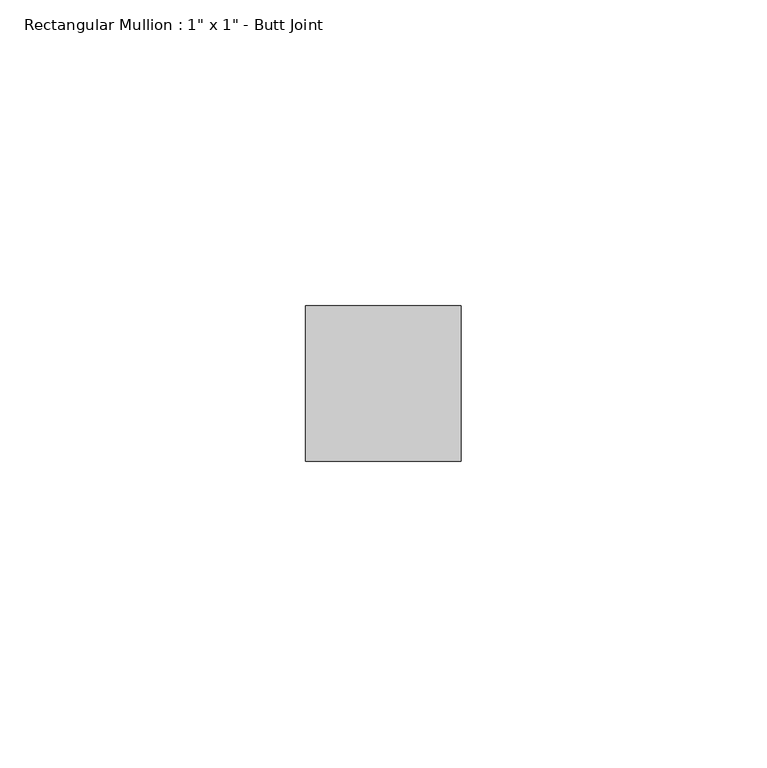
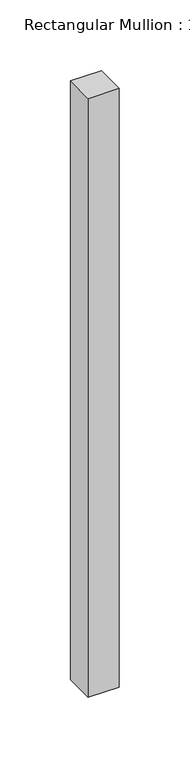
"""IFC4 building model written with IfcOpenShell, lengths in millimetres: member geometry."""

from ifc_helpers import new_model, si_unit, frame, origin, place, context, project, spatial, polyline, outline, extrude, source, transform, mapped, element, save


def member_cb03ba1c(model_context):
    return source(origin(), model_context, "Body", "SweptSolid", [
        extrude(outline(polyline([(12.7, 12.7), (12.7, -12.7), (-12.7, -12.7), (-12.7, 12.7), (12.7, 12.7)])), frame((0.0, 0.0, -518.16), z_axis=(0.0, 0.0, 1.0), x_axis=(1.0, 0.0, 0.0)), (0.0, 0.0, 1.0), 518.16),
    ])


if __name__ == "__main__":
    model = new_model("IFC4")
    model_context = context("Model", 3, world=origin())
    ifc_project = project(units=[si_unit("LENGTHUNIT", "METRE", prefix="MILLI")], contexts=[model_context])
    site = spatial("IfcSite", under=ifc_project)
    building = spatial("IfcBuilding", under=site)
    placement = place(None, origin())
    member_shape = member_cb03ba1c(model_context)
    element("IfcMember", 1, ObjectType="Rectangular Mullion : 1\" x 1\" - Butt Joint", at=placement, inside=building, context=model_context, shape_type="MappedRepresentation", body=[
        mapped(member_shape, transform((0.0, 0.0, 0.0), x_axis=(1.0, 0.0, 0.0), y_axis=(0.0, 1.0, 0.0), z_axis=(0.0, 0.0, 1.0))),
    ])
    save(model, "model.ifc")
